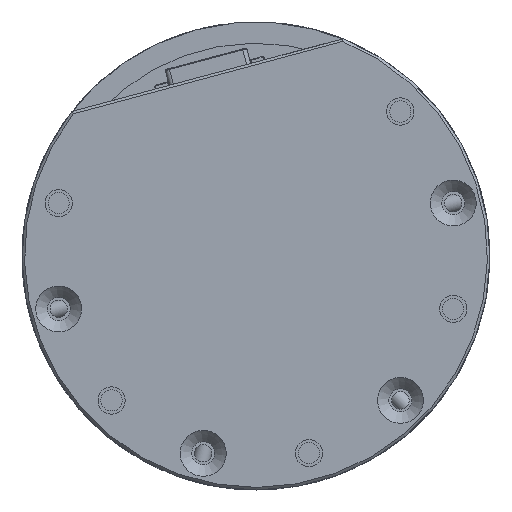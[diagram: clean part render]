
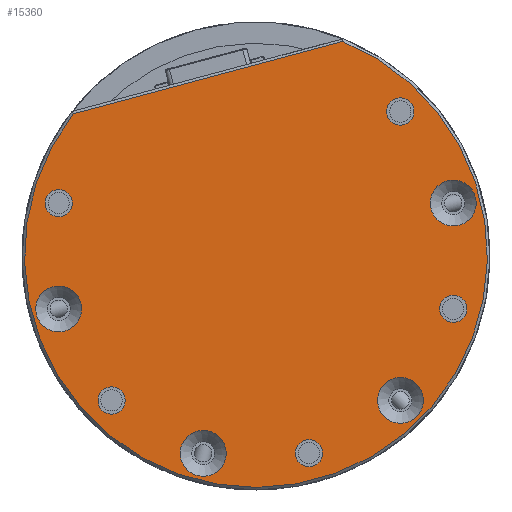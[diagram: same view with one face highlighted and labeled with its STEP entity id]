
A CAD part, front view. The second image highlights one B-rep face of the part: STEP entity #15360.
In plain terms, the highlighted planar face has unit normal (0, -1, 0).
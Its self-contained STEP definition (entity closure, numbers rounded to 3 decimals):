
#72 = FACE_BOUND ( 'NONE', #5300, .T. ) ;
#154 = CARTESIAN_POINT ( 'NONE',  ( 15.418, -17., 16.563 ) ) ;
#384 = VERTEX_POINT ( 'NONE', #10683 ) ;
#522 = CARTESIAN_POINT ( 'NONE',  ( -16.964, -17., -16.977 ) ) ;
#695 = ORIENTED_EDGE ( 'NONE', *, *, #20674, .F. ) ;
#845 = CARTESIAN_POINT ( 'NONE',  ( -21.073, -17., 16.812 ) ) ;
#929 = CIRCLE ( 'NONE', #11383, 1.6 ) ;
#1053 = EDGE_CURVE ( 'NONE', #20185, #3425, #18386, .T. ) ;
#1267 = CIRCLE ( 'NONE', #20682, 2.7 ) ;
#1325 = DIRECTION ( 'NONE',  ( 0., -1., 0. ) ) ;
#1346 = DIRECTION ( 'NONE',  ( 0., -1., 0. ) ) ;
#1502 = EDGE_CURVE ( 'NONE', #384, #384, #16611, .T. ) ;
#1637 = AXIS2_PLACEMENT_3D ( 'NONE', #13269, #22456, #20503 ) ;
#1687 = VERTEX_POINT ( 'NONE', #15941 ) ;
#2007 = CIRCLE ( 'NONE', #1637, 1.6 ) ;
#2792 = DIRECTION ( 'NONE',  ( -0.966, 0., -0.259 ) ) ;
#3291 = ORIENTED_EDGE ( 'NONE', *, *, #17872, .F. ) ;
#3413 = CARTESIAN_POINT ( 'NONE',  ( -8.81, -17., -23.885 ) ) ;
#3425 = VERTEX_POINT ( 'NONE', #13158 ) ;
#3532 = CARTESIAN_POINT ( 'NONE',  ( 20.572, -17., 5.521 ) ) ;
#3660 = VERTEX_POINT ( 'NONE', #3413 ) ;
#3776 = VERTEX_POINT ( 'NONE', #3532 ) ;
#3815 = FACE_BOUND ( 'NONE', #10780, .T. ) ;
#3950 = DIRECTION ( 'NONE',  ( 0., -1., 0. ) ) ;
#4313 = AXIS2_PLACEMENT_3D ( 'NONE', #10634, #7027, #17770 ) ;
#4599 = EDGE_LOOP ( 'NONE', ( #20461 ) ) ;
#4642 = DIRECTION ( 'NONE',  ( -0.966, 0., -0.259 ) ) ;
#4726 = ORIENTED_EDGE ( 'NONE', *, *, #21043, .F. ) ;
#5040 = CARTESIAN_POINT ( 'NONE',  ( -18.509, -17., -17.392 ) ) ;
#5140 = EDGE_LOOP ( 'NONE', ( #9007 ) ) ;
#5230 = DIRECTION ( 'NONE',  ( 0., -1., 0. ) ) ;
#5300 = EDGE_LOOP ( 'NONE', ( #14768 ) ) ;
#5367 = EDGE_CURVE ( 'NONE', #7779, #7779, #21531, .T. ) ;
#5426 = ORIENTED_EDGE ( 'NONE', *, *, #12291, .T. ) ;
#5453 = ORIENTED_EDGE ( 'NONE', *, *, #7499, .F. ) ;
#5628 = AXIS2_PLACEMENT_3D ( 'NONE', #522, #18060, #19928 ) ;
#5766 = VERTEX_POINT ( 'NONE', #14177 ) ;
#5811 = CARTESIAN_POINT ( 'NONE',  ( 16.977, -17., -16.964 ) ) ;
#6230 = AXIS2_PLACEMENT_3D ( 'NONE', #7577, #3950, #11075 ) ;
#6519 = DIRECTION ( 'NONE',  ( -0.966, 0., -0.259 ) ) ;
#6548 = EDGE_LOOP ( 'NONE', ( #22556 ) ) ;
#6700 = DIRECTION ( 'NONE',  ( -0.966, 0., -0.259 ) ) ;
#7027 = DIRECTION ( 'NONE',  ( 0., -1., 0. ) ) ;
#7218 = FACE_BOUND ( 'NONE', #5140, .T. ) ;
#7264 = CIRCLE ( 'NONE', #20321, 1.6 ) ;
#7499 = EDGE_CURVE ( 'NONE', #22996, #22996, #20567, .T. ) ;
#7566 = FACE_BOUND ( 'NONE', #4599, .T. ) ;
#7577 = CARTESIAN_POINT ( 'NONE',  ( -23.18, -17., -6.221 ) ) ;
#7779 = VERTEX_POINT ( 'NONE', #22230 ) ;
#8385 = CARTESIAN_POINT ( 'NONE',  ( 23.18, -17., 6.221 ) ) ;
#8406 = CARTESIAN_POINT ( 'NONE',  ( 16.964, -17., 16.977 ) ) ;
#8865 = FACE_OUTER_BOUND ( 'NONE', #14463, .T. ) ;
#8898 = CARTESIAN_POINT ( 'NONE',  ( 10.214, -17., 25.209 ) ) ;
#9007 = ORIENTED_EDGE ( 'NONE', *, *, #21512, .F. ) ;
#9712 = CARTESIAN_POINT ( 'NONE',  ( 6.221, -17., -23.18 ) ) ;
#9825 = AXIS2_PLACEMENT_3D ( 'NONE', #22592, #1325, #13618 ) ;
#10219 = VERTEX_POINT ( 'NONE', #17356 ) ;
#10595 = FACE_BOUND ( 'NONE', #6548, .T. ) ;
#10634 = CARTESIAN_POINT ( 'NONE',  ( 0., -17., 0. ) ) ;
#10683 = CARTESIAN_POINT ( 'NONE',  ( 14.37, -17., -17.664 ) ) ;
#10780 = EDGE_LOOP ( 'NONE', ( #5453 ) ) ;
#11029 = CIRCLE ( 'NONE', #4313, 27.2 ) ;
#11075 = DIRECTION ( 'NONE',  ( -0.966, 0., -0.259 ) ) ;
#11348 = VECTOR ( 'NONE', #6700, 1000. ) ;
#11383 = AXIS2_PLACEMENT_3D ( 'NONE', #8406, #5230, #6519 ) ;
#11685 = CIRCLE ( 'NONE', #9825, 1.6 ) ;
#11724 = EDGE_LOOP ( 'NONE', ( #18849 ) ) ;
#12291 = EDGE_CURVE ( 'NONE', #3425, #20185, #11029, .T. ) ;
#12933 = DIRECTION ( 'NONE',  ( 0., -1., 0. ) ) ;
#12978 = DIRECTION ( 'NONE',  ( 0., -1., 0. ) ) ;
#13158 = CARTESIAN_POINT ( 'NONE',  ( -21.464, -17., 16.707 ) ) ;
#13218 = CIRCLE ( 'NONE', #16182, 2.7 ) ;
#13269 = CARTESIAN_POINT ( 'NONE',  ( 23.185, -17., -6.202 ) ) ;
#13618 = DIRECTION ( 'NONE',  ( -0.966, 0., -0.259 ) ) ;
#13632 = AXIS2_PLACEMENT_3D ( 'NONE', #5811, #12933, #20061 ) ;
#13818 = EDGE_LOOP ( 'NONE', ( #3291 ) ) ;
#14177 = CARTESIAN_POINT ( 'NONE',  ( -24.73, -17., 5.788 ) ) ;
#14215 = FACE_BOUND ( 'NONE', #15872, .T. ) ;
#14459 = FACE_BOUND ( 'NONE', #20606, .T. ) ;
#14463 = EDGE_LOOP ( 'NONE', ( #5426, #19409 ) ) ;
#14682 = FACE_BOUND ( 'NONE', #13818, .T. ) ;
#14768 = ORIENTED_EDGE ( 'NONE', *, *, #21481, .F. ) ;
#15150 = CARTESIAN_POINT ( 'NONE',  ( 0., -17., 0. ) ) ;
#15360 = ADVANCED_FACE ( 'NONE', ( #72, #7566, #14215, #14682, #10595, #14459, #3815, #17736, #7218, #8865 ), #15979, .T. ) ;
#15872 = EDGE_LOOP ( 'NONE', ( #695 ) ) ;
#15941 = CARTESIAN_POINT ( 'NONE',  ( 4.676, -17., -23.594 ) ) ;
#15979 = PLANE ( 'NONE',  #17132 ) ;
#16159 = VERTEX_POINT ( 'NONE', #154 ) ;
#16182 = AXIS2_PLACEMENT_3D ( 'NONE', #8385, #1346, #4642 ) ;
#16611 = CIRCLE ( 'NONE', #13632, 2.7 ) ;
#16834 = DIRECTION ( 'NONE',  ( 0., -1., 0. ) ) ;
#17132 = AXIS2_PLACEMENT_3D ( 'NONE', #15150, #18748, #22366 ) ;
#17356 = CARTESIAN_POINT ( 'NONE',  ( 21.639, -17., -6.617 ) ) ;
#17736 = FACE_BOUND ( 'NONE', #11724, .T. ) ;
#17770 = DIRECTION ( 'NONE',  ( -0.966, 0., -0.259 ) ) ;
#17872 = EDGE_CURVE ( 'NONE', #10219, #10219, #2007, .T. ) ;
#18060 = DIRECTION ( 'NONE',  ( 0., -1., 0. ) ) ;
#18386 = LINE ( 'NONE', #845, #11348 ) ;
#18748 = DIRECTION ( 'NONE',  ( 0., -1., 0. ) ) ;
#18849 = ORIENTED_EDGE ( 'NONE', *, *, #1502, .F. ) ;
#19409 = ORIENTED_EDGE ( 'NONE', *, *, #1053, .T. ) ;
#19928 = DIRECTION ( 'NONE',  ( -0.966, 0., -0.259 ) ) ;
#20061 = DIRECTION ( 'NONE',  ( -0.966, 0., -0.259 ) ) ;
#20099 = DIRECTION ( 'NONE',  ( -0.966, 0., -0.259 ) ) ;
#20185 = VERTEX_POINT ( 'NONE', #8898 ) ;
#20321 = AXIS2_PLACEMENT_3D ( 'NONE', #9712, #16834, #2792 ) ;
#20461 = ORIENTED_EDGE ( 'NONE', *, *, #5367, .F. ) ;
#20503 = DIRECTION ( 'NONE',  ( -0.966, 0., -0.259 ) ) ;
#20567 = CIRCLE ( 'NONE', #5628, 1.6 ) ;
#20606 = EDGE_LOOP ( 'NONE', ( #4726 ) ) ;
#20674 = EDGE_CURVE ( 'NONE', #3776, #3776, #13218, .T. ) ;
#20682 = AXIS2_PLACEMENT_3D ( 'NONE', #21506, #12978, #20099 ) ;
#21043 = EDGE_CURVE ( 'NONE', #5766, #5766, #11685, .T. ) ;
#21481 = EDGE_CURVE ( 'NONE', #3660, #3660, #1267, .T. ) ;
#21506 = CARTESIAN_POINT ( 'NONE',  ( -6.202, -17., -23.185 ) ) ;
#21512 = EDGE_CURVE ( 'NONE', #1687, #1687, #7264, .T. ) ;
#21531 = CIRCLE ( 'NONE', #6230, 2.7 ) ;
#21920 = EDGE_CURVE ( 'NONE', #16159, #16159, #929, .T. ) ;
#22230 = CARTESIAN_POINT ( 'NONE',  ( -25.787, -17., -6.921 ) ) ;
#22366 = DIRECTION ( 'NONE',  ( -0.966, 0., -0.259 ) ) ;
#22456 = DIRECTION ( 'NONE',  ( 0., -1., 0. ) ) ;
#22556 = ORIENTED_EDGE ( 'NONE', *, *, #21920, .F. ) ;
#22592 = CARTESIAN_POINT ( 'NONE',  ( -23.185, -17., 6.202 ) ) ;
#22996 = VERTEX_POINT ( 'NONE', #5040 ) ;
